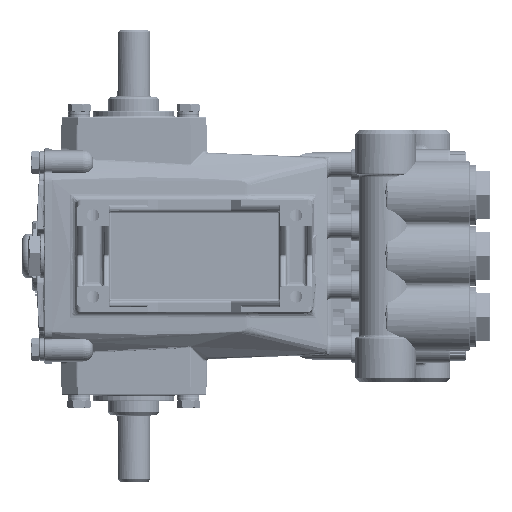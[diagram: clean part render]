
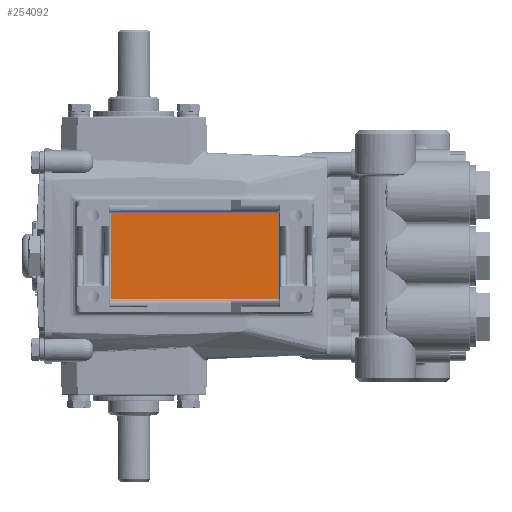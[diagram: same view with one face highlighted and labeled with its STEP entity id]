
A CAD part, front view. The second image highlights one B-rep face of the part: STEP entity #254092.
In plain terms, the highlighted planar face has unit normal (0, -1, 0).
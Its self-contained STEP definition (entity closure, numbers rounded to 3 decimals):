
#12031 = FACE_OUTER_BOUND ( 'NONE', #261937, .T. ) ;
#12037 = AXIS2_PLACEMENT_3D ( 'NONE', #30184, #30186, #30188 ) ;
#30182 = PLANE ( 'NONE',  #12037 ) ;
#30184 = CARTESIAN_POINT ( 'NONE',  ( -136., -40., 22. ) ) ;
#30186 = DIRECTION ( 'NONE',  ( 0., 1., 0. ) ) ;
#30188 = DIRECTION ( 'NONE',  ( 0., 0., -1. ) ) ;
#77965 = ORIENTED_EDGE ( 'NONE', *, *, #78859, .T. ) ;
#77966 = ORIENTED_EDGE ( 'NONE', *, *, #78861, .T. ) ;
#77967 = ORIENTED_EDGE ( 'NONE', *, *, #78857, .T. ) ;
#77968 = ORIENTED_EDGE ( 'NONE', *, *, #78864, .T. ) ;
#78857 = EDGE_CURVE ( 'NONE', #261333, #261335, #238135, .T. ) ;
#78859 = EDGE_CURVE ( 'NONE', #261331, #261333, #238141, .T. ) ;
#78861 = EDGE_CURVE ( 'NONE', #261335, #261339, #238146, .T. ) ;
#78864 = EDGE_CURVE ( 'NONE', #261339, #261331, #238151, .T. ) ;
#136789 = CARTESIAN_POINT ( 'NONE',  ( -135., -40., -21. ) ) ;
#136791 = CARTESIAN_POINT ( 'NONE',  ( -53., -40., -21. ) ) ;
#136793 = CARTESIAN_POINT ( 'NONE',  ( -53., -40., 21. ) ) ;
#136796 = CARTESIAN_POINT ( 'NONE',  ( -135., -40., 21. ) ) ;
#138144 = VECTOR ( 'NONE', #238139, 1000. ) ;
#138147 = VECTOR ( 'NONE', #238144, 1000. ) ;
#138152 = VECTOR ( 'NONE', #238150, 1000. ) ;
#138159 = VECTOR ( 'NONE', #238155, 1000. ) ;
#238135 = LINE ( 'NONE', #238137, #138144 ) ;
#238137 = CARTESIAN_POINT ( 'NONE',  ( -53., -40., 22. ) ) ;
#238139 = DIRECTION ( 'NONE',  ( 0., 0., 1. ) ) ;
#238141 = LINE ( 'NONE', #238142, #138147 ) ;
#238142 = CARTESIAN_POINT ( 'NONE',  ( -52., -40., -21. ) ) ;
#238144 = DIRECTION ( 'NONE',  ( 1., 0., 0. ) ) ;
#238146 = LINE ( 'NONE', #238148, #138152 ) ;
#238148 = CARTESIAN_POINT ( 'NONE',  ( -136., -40., 21. ) ) ;
#238150 = DIRECTION ( 'NONE',  ( -1., 0., 0. ) ) ;
#238151 = LINE ( 'NONE', #238153, #138159 ) ;
#238153 = CARTESIAN_POINT ( 'NONE',  ( -135., -40., -22. ) ) ;
#238155 = DIRECTION ( 'NONE',  ( 0., 0., -1. ) ) ;
#254092 = ADVANCED_FACE ( 'NONE', ( #12031 ), #30182, .F. ) ;
#261331 = VERTEX_POINT ( 'NONE', #136789 ) ;
#261333 = VERTEX_POINT ( 'NONE', #136791 ) ;
#261335 = VERTEX_POINT ( 'NONE', #136793 ) ;
#261339 = VERTEX_POINT ( 'NONE', #136796 ) ;
#261937 = EDGE_LOOP ( 'NONE', ( #77965, #77967, #77966, #77968 ) ) ;
